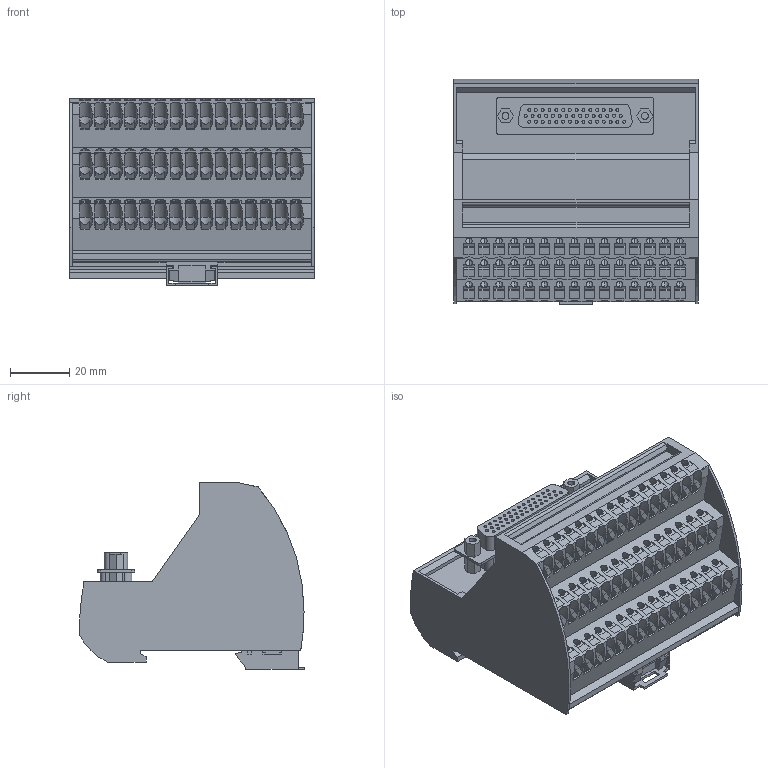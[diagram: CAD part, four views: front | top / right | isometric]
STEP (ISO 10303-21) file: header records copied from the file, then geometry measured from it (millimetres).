
FILE_DESCRIPTION(('Creo Elements/Direct Modeling STEP Export'),'2;1');
FILE_NAME('C:/Temp/JobServerData/JobServer Files/3362ecee-0f45-4e7c-973b-782d5718416c/work/output/model.stp','2024-01-26T18:22:11',(''),(''),'Creo Elements/Direct Modeling STEP processor for AP214 (Solid Model)','Creo Elements/Direct Modeling 20.1D 10-Oct-2020 (C) Parametric Technology GmbH','');
FILE_SCHEMA(('AUTOMOTIVE_DESIGN { 1 0 10303 214 1 1 1 1 }'));
Products named in the file (2): VIP_3_PT_HD44SUB_F-select
Assembly tree (1 placements, depth 2):
  VIP_3_PT_HD44SUB_F-select
    VIP_3_PT_HD44SUB_F-select
Bounding box: 82.5 x 76.05 x 63.02 mm (x, y, z)
Volume: 195750.5 mm3; surface area: 45936.2 mm2
Topology: 1 solids, 1 shells, 1943 faces, 5419 edges, 3563 vertices
Faces by surface type: plane 1605, cylinder 293, cone 45
Entity records: 78425 total; most frequent: CARTESIAN_POINT 14249, ORIENTED_EDGE 10838, DIRECTION 8934, EDGE_CURVE 5419, VECTOR 4338, LINE 4338, VERTEX_POINT 3563, AXIS2_PLACEMENT_3D 2298
